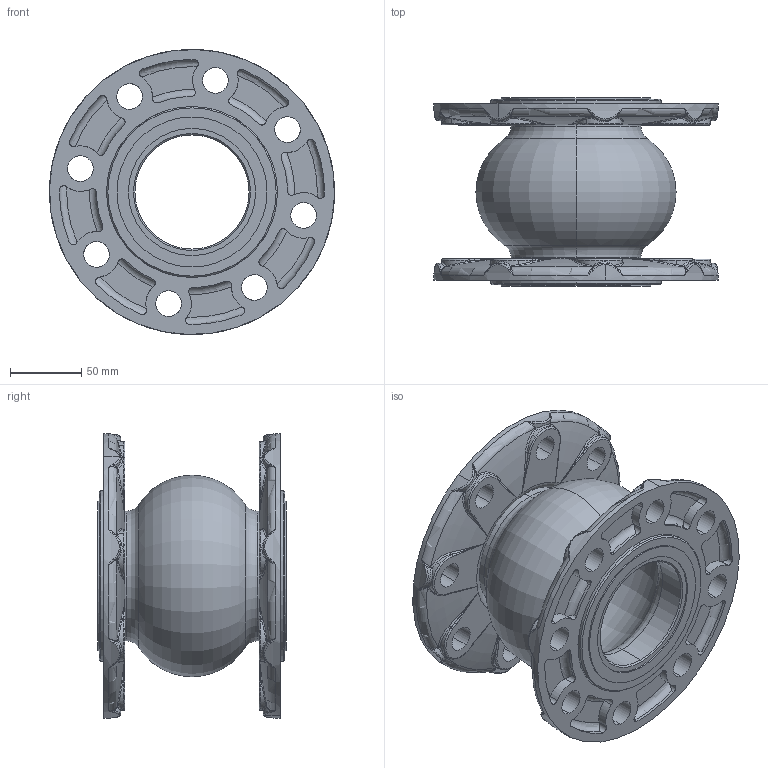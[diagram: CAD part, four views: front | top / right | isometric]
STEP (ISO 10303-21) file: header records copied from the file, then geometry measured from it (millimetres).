
FILE_DESCRIPTION (( 'STEP AP214' ), '1' );
FILE_NAME ('DN80 单球橡胶软接.STEP', '2025-12-26T01:29:35', ( '' ), ( '' ), 'SwSTEP 2.0', 'SolidWorks 2024', '' );
FILE_SCHEMA (( 'AUTOMOTIVE_DESIGN' ));
Length unit declared in the file: millimetre
Products named in the file (3): DN80 单球橡胶软接; DN80 单球橡胶; DN80新款球铁法兰
Assembly tree (3 placements, depth 2):
  DN80 单球橡胶软接
    DN80 单球橡胶
    DN80新款球铁法兰  x2
Bounding box: 199.9 x 132 x 199.9 mm (x, y, z)
Volume: 775897 mm3; surface area: 268687.9 mm2
Topology: 3 solids, 3 shells, 740 faces, 1808 edges, 1032 vertices
Faces by surface type: cylinder 290, bspline 224, torus 110, plane 76, sphere 32, cone 8
Entity records: 17527 total; most frequent: CARTESIAN_POINT 9065, ORIENTED_EDGE 1856, DIRECTION 1653, EDGE_CURVE 928, AXIS2_PLACEMENT_3D 736, VERTEX_POINT 548, CIRCLE 444, EDGE_LOOP 432
